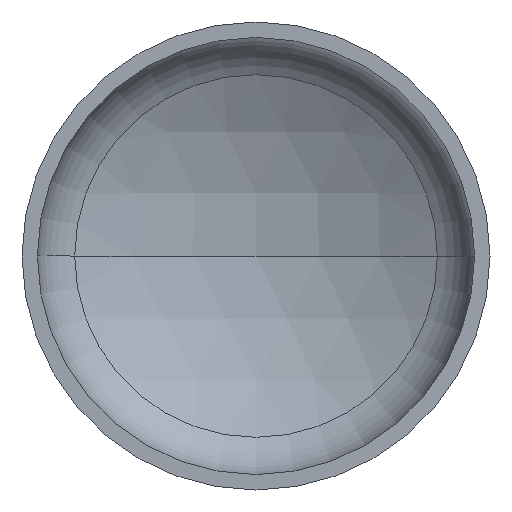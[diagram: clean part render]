
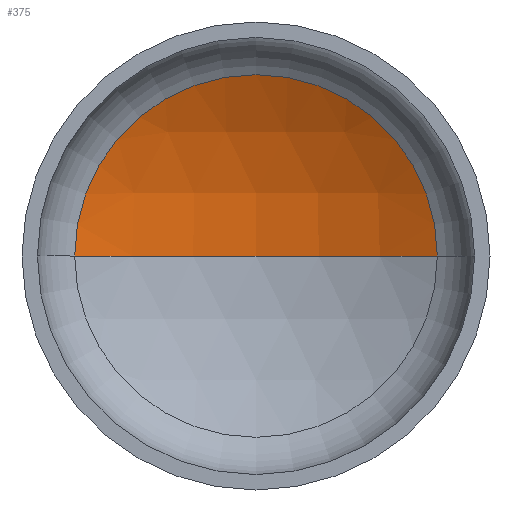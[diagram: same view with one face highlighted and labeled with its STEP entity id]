
A CAD part, front view. The second image highlights one B-rep face of the part: STEP entity #375.
In plain terms, the highlighted spherical face has radius 2720 mm.
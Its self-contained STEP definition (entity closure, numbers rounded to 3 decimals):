
#10 = EDGE_LOOP ( 'NONE', ( #28, #132, #109 ) ) ;
#15 = VERTEX_POINT ( 'NONE', #409 ) ;
#28 = ORIENTED_EDGE ( 'NONE', *, *, #173, .F. ) ;
#44 = VERTEX_POINT ( 'NONE', #298 ) ;
#46 = VERTEX_POINT ( 'NONE', #297 ) ;
#70 = AXIS2_PLACEMENT_3D ( 'NONE', #251, #250, #248 ) ;
#71 = AXIS2_PLACEMENT_3D ( 'NONE', #269, #262, #286 ) ;
#77 = AXIS2_PLACEMENT_3D ( 'NONE', #219, #231, #228 ) ;
#109 = ORIENTED_EDGE ( 'NONE', *, *, #170, .T. ) ;
#132 = ORIENTED_EDGE ( 'NONE', *, *, #171, .T. ) ;
#137 = AXIS2_PLACEMENT_3D ( 'NONE', #381, #157, #272 ) ;
#157 = DIRECTION ( 'NONE',  ( 0., 0., -1. ) ) ;
#170 = EDGE_CURVE ( 'NONE', #46, #15, #301, .T. ) ;
#171 = EDGE_CURVE ( 'NONE', #44, #46, #237, .T. ) ;
#173 = EDGE_CURVE ( 'NONE', #44, #15, #407, .T. ) ;
#219 = CARTESIAN_POINT ( 'NONE',  ( 0., 534.329, 0. ) ) ;
#228 = DIRECTION ( 'NONE',  ( 1., 0., 0. ) ) ;
#231 = DIRECTION ( 'NONE',  ( 0., -1., 0. ) ) ;
#237 = CIRCLE ( 'NONE', #71, 2720. ) ;
#248 = DIRECTION ( 'NONE',  ( 1., 0., 0. ) ) ;
#250 = DIRECTION ( 'NONE',  ( 0., 0., 1. ) ) ;
#251 = CARTESIAN_POINT ( 'NONE',  ( 0., -1845.431, 0. ) ) ;
#262 = DIRECTION ( 'NONE',  ( 0., 0., -1. ) ) ;
#266 = SPHERICAL_SURFACE ( 'NONE', #137, 2720. ) ;
#269 = CARTESIAN_POINT ( 'NONE',  ( 0., -1845.431, 0. ) ) ;
#272 = DIRECTION ( 'NONE',  ( -1., 0., 0. ) ) ;
#286 = DIRECTION ( 'NONE',  ( -1., 0., 0. ) ) ;
#297 = CARTESIAN_POINT ( 'NONE',  ( 1317.248, 534.329, 0. ) ) ;
#298 = CARTESIAN_POINT ( 'NONE',  ( 0., 874.569, 0. ) ) ;
#301 = CIRCLE ( 'NONE', #77, 1317.248 ) ;
#373 = FACE_OUTER_BOUND ( 'NONE', #10, .T. ) ;
#375 = ADVANCED_FACE ( 'NONE', ( #373 ), #266, .F. ) ;
#381 = CARTESIAN_POINT ( 'NONE',  ( 0., -1845.431, 0. ) ) ;
#407 = CIRCLE ( 'NONE', #70, 2720. ) ;
#409 = CARTESIAN_POINT ( 'NONE',  ( -1317.248, 534.329, 0. ) ) ;
